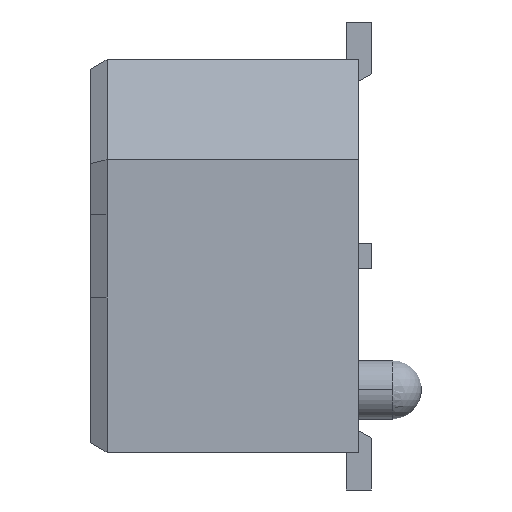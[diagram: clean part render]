
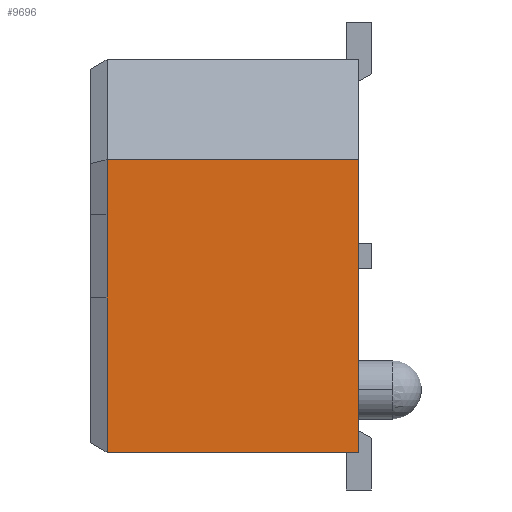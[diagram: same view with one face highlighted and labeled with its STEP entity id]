
A CAD part, left-side view. The second image highlights one B-rep face of the part: STEP entity #9696.
In plain terms, the highlighted planar face has unit normal (-1, 0, 0).
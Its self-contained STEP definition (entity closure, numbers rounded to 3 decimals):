
#9696=ADVANCED_FACE('',(#19581),#19582,.T.);
#19581=FACE_OUTER_BOUND('',#29462,.T.);
#19582=PLANE('',#29463);
#29462=EDGE_LOOP('',(#60221,#60222,#60223,#60224));
#29463=AXIS2_PLACEMENT_3D('',#60225,#60226,#60227);
#60221=ORIENTED_EDGE('',*,*,#72952,.T.);
#60222=ORIENTED_EDGE('',*,*,#62570,.F.);
#60223=ORIENTED_EDGE('',*,*,#61361,.F.);
#60224=ORIENTED_EDGE('',*,*,#72947,.T.);
#60225=CARTESIAN_POINT('',(-30.01,0.,-0.76));
#60226=DIRECTION('',(-1.0,0.0,0.0));
#60227=DIRECTION('',(0.0,0.,1.0));
#61361=EDGE_CURVE('',#74390,#74392,#74393,.T.);
#62570=EDGE_CURVE('',#74392,#76645,#76646,.T.);
#72947=EDGE_CURVE('',#74390,#91357,#91361,.T.);
#72952=EDGE_CURVE('',#91357,#76645,#91367,.T.);
#74390=VERTEX_POINT('',#93496);
#74392=VERTEX_POINT('',#93499);
#74393=LINE('',#93500,#93501);
#76645=VERTEX_POINT('',#96872);
#76646=LINE('',#96873,#96874);
#91357=VERTEX_POINT('',#118480);
#91361=LINE('',#118486,#118487);
#91367=LINE('',#118496,#118497);
#93496=CARTESIAN_POINT('',(-30.01,0.,1.465));
#93499=CARTESIAN_POINT('',(-30.01,0.,-2.985));
#93500=CARTESIAN_POINT('',(-30.01,0.,1.465));
#93501=VECTOR('',#119283,1.0);
#96872=CARTESIAN_POINT('',(-30.01,3.814,-2.985));
#96873=CARTESIAN_POINT('',(-30.01,0.,-2.985));
#96874=VECTOR('',#120463,1.0);
#118480=CARTESIAN_POINT('',(-30.01,3.814,1.465));
#118486=CARTESIAN_POINT('',(-30.01,0.,1.465));
#118487=VECTOR('',#128429,1.0);
#118496=CARTESIAN_POINT('',(-30.01,3.814,2.12));
#118497=VECTOR('',#128433,1.0);
#119283=DIRECTION('',(0.0,0.,-1.0));
#120463=DIRECTION('',(0.0,1.0,0.));
#128429=DIRECTION('',(0.0,1.0,0.));
#128433=DIRECTION('',(0.0,0.0,-1.0));
